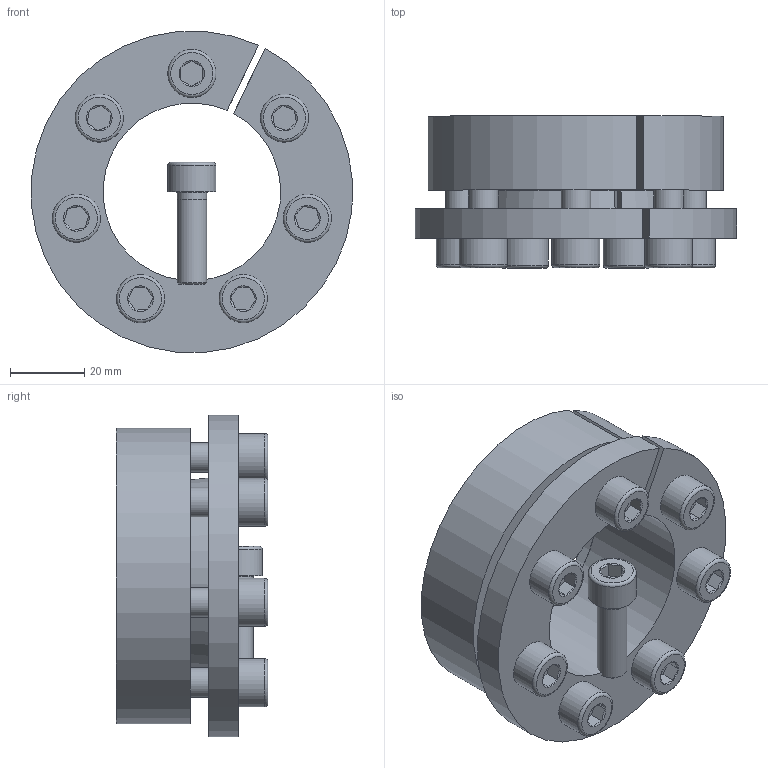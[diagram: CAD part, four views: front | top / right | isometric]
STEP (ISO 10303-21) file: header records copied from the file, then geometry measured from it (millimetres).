
FILE_DESCRIPTION( ( 'Unknown' ), '1' );
FILE_NAME( 'C:/Dokumente und Einstellungen/Sven/Desktop/15/KBS 15 - 48 x 80.stp', 'Unknown', ( 'Unknown' ), ( 'Unknown' ), 'XStep 1.0', 'Unknown', ' ' );
FILE_SCHEMA( ( 'automotive_design' ) );
Length unit declared in the file: millimetre
Products named in the file (3): Assem1; ISO EN DIN 4762 M8x25_26; KBS 15 - 48 x 80_0
Bounding box: 86.78 x 41 x 86.75 mm (x, y, z)
Volume: 196946.8 mm3; surface area: 72205.2 mm2
Topology: 10 solids, 10 shells, 252 faces, 524 edges, 324 vertices
Faces by surface type: plane 110, cylinder 66, cone 60, torus 16
Full cylindrical faces by diameter (mm): 6.647 x14, 7 x8, 8 x16, 9 x14, 13 x8
Entity records: 1692 total; most frequent: CARTESIAN_POINT 266, DIRECTION 262, ORIENTED_EDGE 186, AXIS2_PLACEMENT_3D 115, EDGE_LOOP 104, EDGE_CURVE 93, FACE_OUTER_BOUND 71, VERTEX_POINT 71
